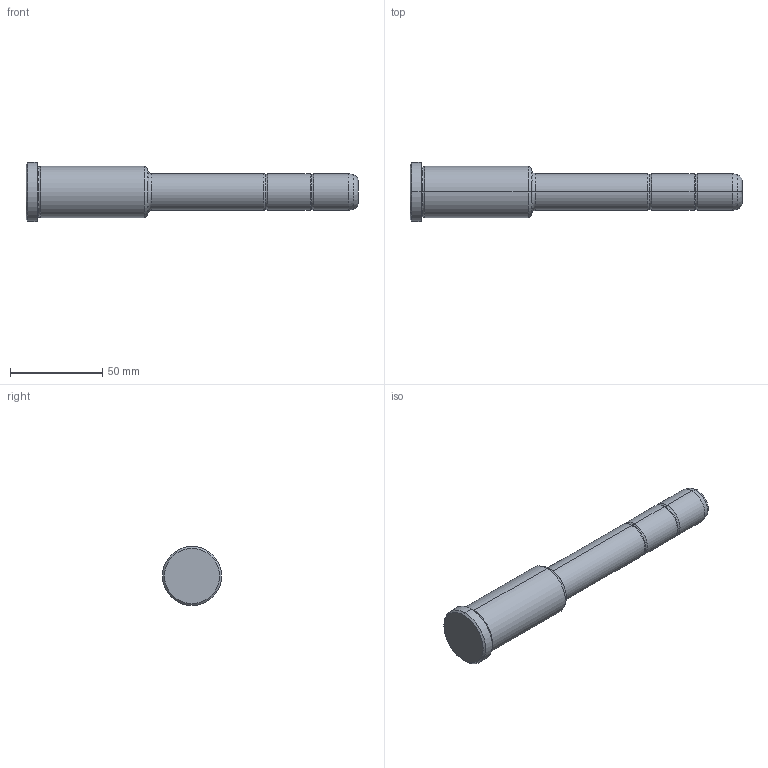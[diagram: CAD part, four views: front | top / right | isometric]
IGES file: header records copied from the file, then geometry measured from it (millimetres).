
Start section: START RECORD GO HERE.
Global section: file name: 351-20X66X180.igs; native system: DASSAULT SYSTEMES CATIA V5 R20 - www.3ds.com; preprocessor: CATIA Version 5 Release 20 ; author: Utente; organization: NB04-ASUS; date: 20210827.151316; units: millimetre
Bounding box: 180 x 32 x 32 mm (x, y, z)
Surface area: 14386.5 mm2 (no closed solid volume)
Topology: 0 solids, 0 shells, 36 faces, 204 edges, 204 vertices
Faces by surface type: revolution 32, plane 4
